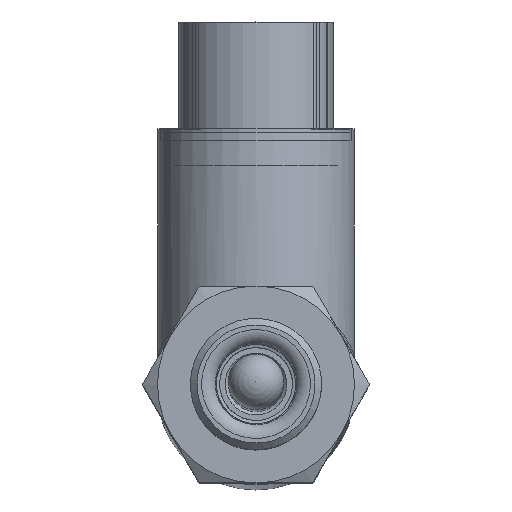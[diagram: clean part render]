
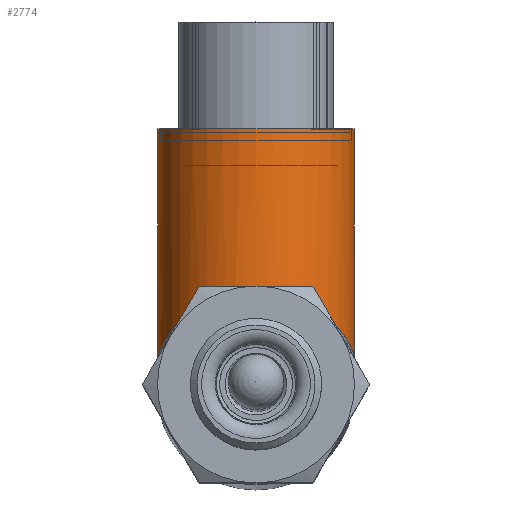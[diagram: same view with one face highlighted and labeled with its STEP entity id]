
A CAD part, top view. The second image highlights one B-rep face of the part: STEP entity #2774.
In plain terms, the highlighted cylindrical face has radius 9.525 mm (diameter 19.05 mm), a full revolution.
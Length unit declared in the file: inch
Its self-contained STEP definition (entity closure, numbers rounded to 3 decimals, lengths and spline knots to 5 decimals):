
#70=B_SPLINE_CURVE_WITH_KNOTS('',3,(#6652,#6653,#6654,#6655,#6656,#6657,
#6658,#6659,#6660,#6661,#6662,#6663,#6664,#6665,#6666,#6667,#6668,#6669,
#6670,#6671,#6672,#6673,#6674,#6675,#6676,#6677,#6678,#6679,#6680,#6681,
#6682),.UNSPECIFIED.,.F.,.F.,(4,1,1,1,1,1,1,1,1,1,1,1,1,1,1,1,1,1,1,1,1,
1,1,1,1,1,1,1,4),(-9.63701,-9.40756,-9.17811,
-8.7192,-8.41326,-8.26029,-8.10733,
-8.03084,-7.95436,-7.87787,-7.80139,
-7.49545,-7.18952,-6.88358,-6.57764,
-6.27171,-5.96577,-5.65983,-5.35389,-5.04796,
-4.89499,-4.81851,-4.74202,-4.58905,
-4.43608,-4.13015,-3.67124,-3.44179,
-3.21234),.UNSPECIFIED.);
#314=FACE_OUTER_BOUND('',#521,.T.);
#521=EDGE_LOOP('',(#1956,#1957,#1958,#1959));
#713=LINE('',#6732,#843);
#843=VECTOR('',#3698,0.375);
#1012=CIRCLE('',#3171,0.375);
#1210=VERTEX_POINT('',#6618);
#1214=VERTEX_POINT('',#6731);
#1483=EDGE_CURVE('',#1210,#1210,#70,.T.);
#1486=EDGE_CURVE('',#1214,#1210,#713,.T.);
#1487=EDGE_CURVE('',#1214,#1214,#1012,.T.);
#1956=ORIENTED_EDGE('',*,*,#1486,.F.);
#1957=ORIENTED_EDGE('',*,*,#1487,.F.);
#1958=ORIENTED_EDGE('',*,*,#1486,.T.);
#1959=ORIENTED_EDGE('',*,*,#1483,.F.);
#2491=CYLINDRICAL_SURFACE('',#3170,0.375);
#2774=ADVANCED_FACE('',(#314),#2491,.T.);
#3170=AXIS2_PLACEMENT_3D('',#6730,#3696,#3697);
#3171=AXIS2_PLACEMENT_3D('',#6733,#3699,#3700);
#3696=DIRECTION('center_axis',(0.,1.,0.));
#3697=DIRECTION('ref_axis',(0.,0.,1.));
#3698=DIRECTION('',(0.,-1.,0.));
#3699=DIRECTION('center_axis',(0.,1.,0.));
#3700=DIRECTION('ref_axis',(0.,0.,1.));
#6618=CARTESIAN_POINT('',(0.,0.3875,-5.335));
#6652=CARTESIAN_POINT('Ctrl Pts',(0.,0.3875,
-5.335));
#6653=CARTESIAN_POINT('Ctrl Pts',(0.03115,0.3875,
-5.335));
#6654=CARTESIAN_POINT('Ctrl Pts',(0.09334,0.38036,-5.32713));
#6655=CARTESIAN_POINT('Ctrl Pts',(0.20461,0.34112,-5.28343));
#6656=CARTESIAN_POINT('Ctrl Pts',(0.29321,0.27239,-5.20526));
#6657=CARTESIAN_POINT('Ctrl Pts',(0.3437,0.20219,-5.11674));
#6658=CARTESIAN_POINT('Ctrl Pts',(0.36561,0.15993,-5.04931));
#6659=CARTESIAN_POINT('Ctrl Pts',(0.37367,0.1404,-5.00157));
#6660=CARTESIAN_POINT('Ctrl Pts',(0.37544,0.13578,-4.95998));
#6661=CARTESIAN_POINT('Ctrl Pts',(0.37411,0.13925,-4.92887));
#6662=CARTESIAN_POINT('Ctrl Pts',(0.37043,0.14824,-4.89924));
#6663=CARTESIAN_POINT('Ctrl Pts',(0.35903,0.17393,-4.84389));
#6664=CARTESIAN_POINT('Ctrl Pts',(0.32973,0.22598,-4.77212));
#6665=CARTESIAN_POINT('Ctrl Pts',(0.26717,0.29413,-4.68986));
#6666=CARTESIAN_POINT('Ctrl Pts',(0.17871,0.35264,-4.62367));
#6667=CARTESIAN_POINT('Ctrl Pts',(0.06402,0.38891,
-4.58343));
#6668=CARTESIAN_POINT('Ctrl Pts',(-0.06405,0.38899,
-4.58331));
#6669=CARTESIAN_POINT('Ctrl Pts',(-0.17868,0.35265,-4.62371));
#6670=CARTESIAN_POINT('Ctrl Pts',(-0.26718,0.29408,
-4.68977));
#6671=CARTESIAN_POINT('Ctrl Pts',(-0.32974,0.226,
-4.77227));
#6672=CARTESIAN_POINT('Ctrl Pts',(-0.36229,0.16812,
-4.85174));
#6673=CARTESIAN_POINT('Ctrl Pts',(-0.37368,0.14034,
-4.91842));
#6674=CARTESIAN_POINT('Ctrl Pts',(-0.37544,0.13579,
-4.96003));
#6675=CARTESIAN_POINT('Ctrl Pts',(-0.37367,0.1404,
-5.00157));
#6676=CARTESIAN_POINT('Ctrl Pts',(-0.3656,0.15994,
-5.04934));
#6677=CARTESIAN_POINT('Ctrl Pts',(-0.34369,0.20218,
-5.11674));
#6678=CARTESIAN_POINT('Ctrl Pts',(-0.2932,0.2724,
-5.20527));
#6679=CARTESIAN_POINT('Ctrl Pts',(-0.20461,0.34112,
-5.28342));
#6680=CARTESIAN_POINT('Ctrl Pts',(-0.09334,0.38036,
-5.32713));
#6681=CARTESIAN_POINT('Ctrl Pts',(-0.03115,0.3875,
-5.335));
#6682=CARTESIAN_POINT('Ctrl Pts',(0.,0.3875,
-5.335));
#6730=CARTESIAN_POINT('Origin',(0.,0.47,
-4.96));
#6731=CARTESIAN_POINT('',(0.,1.,-5.335));
#6732=CARTESIAN_POINT('',(0.,0.47,-5.335));
#6733=CARTESIAN_POINT('Origin',(0.,1.,
-4.96));
